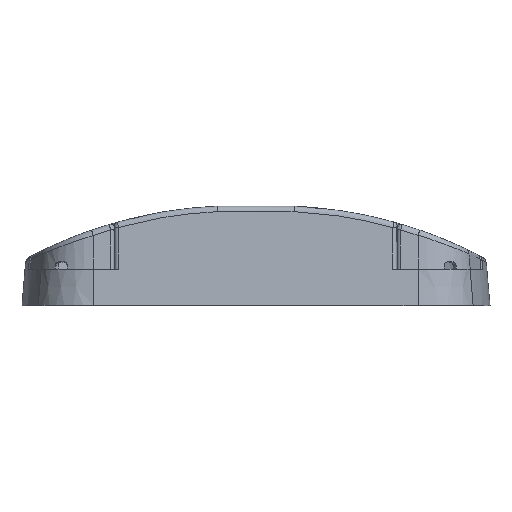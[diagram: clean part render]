
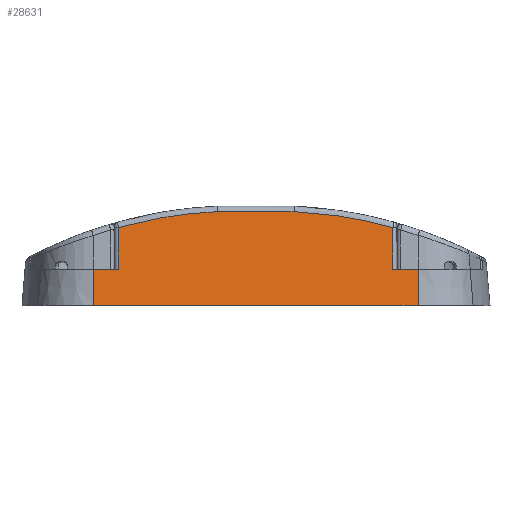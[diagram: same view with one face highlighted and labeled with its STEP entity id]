
A CAD part, top view. The second image highlights one B-rep face of the part: STEP entity #28631.
In plain terms, the highlighted planar face has unit normal (0, 0.087, 0.996).
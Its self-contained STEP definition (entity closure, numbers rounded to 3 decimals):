
#598 = ORIENTED_EDGE ( 'NONE', *, *, #3181, .F. ) ;
#979 = VERTEX_POINT ( 'NONE', #34172 ) ;
#1300 = LINE ( 'NONE', #4632, #24277 ) ;
#1672 = B_SPLINE_CURVE_WITH_KNOTS ( 'NONE', 3,
 ( #2991, #30231, #9142, #21168 ),
 .UNSPECIFIED., .F., .F.,
 ( 4, 4 ),
 ( 0., 1. ),
 .UNSPECIFIED. ) ;
#2247 = VECTOR ( 'NONE', #20181, 1000. ) ;
#2754 = CARTESIAN_POINT ( 'NONE',  ( 431.743, -346.029, -143.509 ) ) ;
#2991 = CARTESIAN_POINT ( 'NONE',  ( 438.576, -334.629, -144.506 ) ) ;
#3092 = EDGE_CURVE ( 'NONE', #979, #4390, #1300, .T. ) ;
#3181 = EDGE_CURVE ( 'NONE', #8962, #3593, #17638, .T. ) ;
#3593 = VERTEX_POINT ( 'NONE', #14939 ) ;
#3601 = CARTESIAN_POINT ( 'NONE',  ( 520.309, -351.769, -143.007 ) ) ;
#4390 = VERTEX_POINT ( 'NONE', #2754 ) ;
#4590 = VERTEX_POINT ( 'NONE', #35927 ) ;
#4632 = CARTESIAN_POINT ( 'NONE',  ( 431.743, -355.869, -142.648 ) ) ;
#4824 = CARTESIAN_POINT ( 'NONE',  ( 465.562, -330.306, -144.885 ) ) ;
#4895 = DIRECTION ( 'NONE',  ( 0., 0.996, -0.087 ) ) ;
#4967 = B_SPLINE_CURVE_WITH_KNOTS ( 'NONE', 3,
 ( #11466, #38855, #11722, #23759 ),
 .UNSPECIFIED., .F., .F.,
 ( 4, 4 ),
 ( 0., 1. ),
 .UNSPECIFIED. ) ;
#5646 = ORIENTED_EDGE ( 'NONE', *, *, #9134, .F. ) ;
#6963 = LINE ( 'NONE', #22701, #11640 ) ;
#7092 = DIRECTION ( 'NONE',  ( 0., -0.996, 0.087 ) ) ;
#7108 = CARTESIAN_POINT ( 'NONE',  ( 513.476, -334.628, -144.506 ) ) ;
#7617 = VECTOR ( 'NONE', #7092, 1000. ) ;
#8027 = DIRECTION ( 'NONE',  ( 0., 0.996, -0.087 ) ) ;
#8132 = DIRECTION ( 'NONE',  ( 1., 0., 0. ) ) ;
#8695 = ORIENTED_EDGE ( 'NONE', *, *, #3092, .F. ) ;
#8962 = VERTEX_POINT ( 'NONE', #10414 ) ;
#9134 = EDGE_CURVE ( 'NONE', #4590, #16768, #4967, .T. ) ;
#9142 = CARTESIAN_POINT ( 'NONE',  ( 456.446, -330.711, -144.849 ) ) ;
#9180 = LINE ( 'NONE', #7108, #11056 ) ;
#9832 = ORIENTED_EDGE ( 'NONE', *, *, #20793, .F. ) ;
#10414 = CARTESIAN_POINT ( 'NONE',  ( 438.576, -346.029, -143.509 ) ) ;
#10495 = EDGE_LOOP ( 'NONE', ( #32245, #8695, #21991, #26667, #26270, #13320, #5646, #25873, #9832, #598 ) ) ;
#10617 = CARTESIAN_POINT ( 'NONE',  ( 438.576, -346.029, -143.509 ) ) ;
#10659 = EDGE_CURVE ( 'NONE', #31498, #21920, #15596, .T. ) ;
#10833 = DIRECTION ( 'NONE',  ( -1., 0., 0. ) ) ;
#11056 = VECTOR ( 'NONE', #28325, 1000. ) ;
#11466 = CARTESIAN_POINT ( 'NONE',  ( 486.49, -330.306, -144.885 ) ) ;
#11640 = VECTOR ( 'NONE', #16682, 1000. ) ;
#11722 = CARTESIAN_POINT ( 'NONE',  ( 504.676, -332.165, -144.722 ) ) ;
#12402 = EDGE_CURVE ( 'NONE', #4390, #8962, #6963, .T. ) ;
#13320 = ORIENTED_EDGE ( 'NONE', *, *, #18513, .F. ) ;
#13443 = VECTOR ( 'NONE', #10833, 1000. ) ;
#14247 = EDGE_CURVE ( 'NONE', #21920, #979, #14877, .T. ) ;
#14546 = LINE ( 'NONE', #25698, #20619 ) ;
#14877 = LINE ( 'NONE', #28783, #13443 ) ;
#14939 = CARTESIAN_POINT ( 'NONE',  ( 438.576, -334.629, -144.506 ) ) ;
#15461 = EDGE_CURVE ( 'NONE', #37909, #31498, #36881, .T. ) ;
#15596 = LINE ( 'NONE', #3601, #7617 ) ;
#16185 = CARTESIAN_POINT ( 'NONE',  ( 520.309, -346.029, -143.509 ) ) ;
#16682 = DIRECTION ( 'NONE',  ( 1., 0., 0. ) ) ;
#16768 = VERTEX_POINT ( 'NONE', #21091 ) ;
#17638 = LINE ( 'NONE', #10617, #2247 ) ;
#18189 = DIRECTION ( 'NONE',  ( 1., 0., 0. ) ) ;
#18513 = EDGE_CURVE ( 'NONE', #16768, #37909, #9180, .T. ) ;
#20181 = DIRECTION ( 'NONE',  ( 0., 0.996, -0.087 ) ) ;
#20210 = PLANE ( 'NONE',  #31107 ) ;
#20619 = VECTOR ( 'NONE', #8132, 1000. ) ;
#20793 = EDGE_CURVE ( 'NONE', #3593, #33824, #1672, .T. ) ;
#21091 = CARTESIAN_POINT ( 'NONE',  ( 513.476, -334.628, -144.506 ) ) ;
#21168 = CARTESIAN_POINT ( 'NONE',  ( 465.562, -330.306, -144.885 ) ) ;
#21920 = VERTEX_POINT ( 'NONE', #25803 ) ;
#21991 = ORIENTED_EDGE ( 'NONE', *, *, #14247, .F. ) ;
#22701 = CARTESIAN_POINT ( 'NONE',  ( 0.001, -346.03, -143.509 ) ) ;
#23052 = CARTESIAN_POINT ( 'NONE',  ( 513.476, -346.029, -143.509 ) ) ;
#23759 = CARTESIAN_POINT ( 'NONE',  ( 513.476, -334.628, -144.506 ) ) ;
#24277 = VECTOR ( 'NONE', #4895, 1000. ) ;
#25698 = CARTESIAN_POINT ( 'NONE',  ( 465.562, -330.306, -144.885 ) ) ;
#25803 = CARTESIAN_POINT ( 'NONE',  ( 520.309, -355.869, -142.648 ) ) ;
#25873 = ORIENTED_EDGE ( 'NONE', *, *, #37986, .F. ) ;
#26270 = ORIENTED_EDGE ( 'NONE', *, *, #15461, .F. ) ;
#26667 = ORIENTED_EDGE ( 'NONE', *, *, #10659, .F. ) ;
#27270 = CARTESIAN_POINT ( 'NONE',  ( 0.001, -346.03, -143.509 ) ) ;
#28325 = DIRECTION ( 'NONE',  ( 0., -0.996, 0.087 ) ) ;
#28631 = ADVANCED_FACE ( 'NONE', ( #35651 ), #20210, .F. ) ;
#28783 = CARTESIAN_POINT ( 'NONE',  ( 85.68, -355.87, -142.648 ) ) ;
#30231 = CARTESIAN_POINT ( 'NONE',  ( 447.376, -332.167, -144.722 ) ) ;
#31107 = AXIS2_PLACEMENT_3D ( 'NONE', #38439, #35509, #8027 ) ;
#31498 = VERTEX_POINT ( 'NONE', #16185 ) ;
#32245 = ORIENTED_EDGE ( 'NONE', *, *, #12402, .F. ) ;
#33824 = VERTEX_POINT ( 'NONE', #4824 ) ;
#34172 = CARTESIAN_POINT ( 'NONE',  ( 431.743, -355.869, -142.648 ) ) ;
#35509 = DIRECTION ( 'NONE',  ( 0., -0.087, -0.996 ) ) ;
#35651 = FACE_OUTER_BOUND ( 'NONE', #10495, .T. ) ;
#35927 = CARTESIAN_POINT ( 'NONE',  ( 486.49, -330.306, -144.885 ) ) ;
#36881 = LINE ( 'NONE', #27270, #38317 ) ;
#37909 = VERTEX_POINT ( 'NONE', #23052 ) ;
#37986 = EDGE_CURVE ( 'NONE', #33824, #4590, #14546, .T. ) ;
#38317 = VECTOR ( 'NONE', #18189, 1000. ) ;
#38439 = CARTESIAN_POINT ( 'NONE',  ( 85.68, -351.77, -143.007 ) ) ;
#38855 = CARTESIAN_POINT ( 'NONE',  ( 495.606, -330.713, -144.849 ) ) ;
